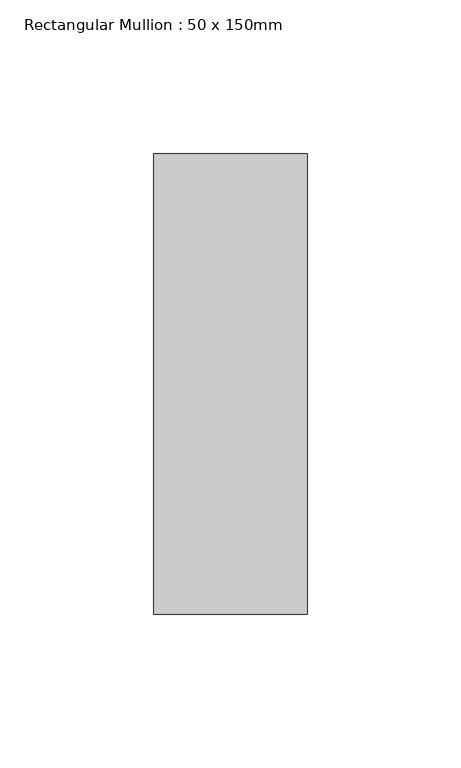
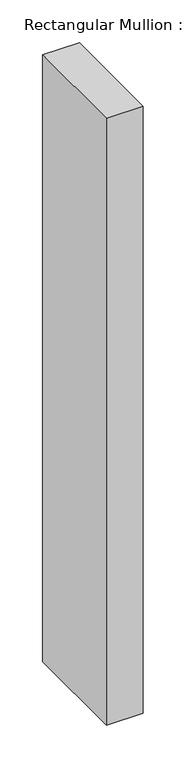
"""IFC4 building model written with IfcOpenShell, lengths in millimetres: member geometry, Rectangular Mullion : 50 x 150mm."""

from ifc_helpers import new_model, si_unit, frame, origin, place, context, project, spatial, polyline, outline, extrude, source, transform, mapped, element, save


def rectangular_mullion_50_x_150mm_f8ff036b(model_context):
    return source(origin(), model_context, "Body", "SweptSolid", [
        extrude(outline(polyline([(0.0, 75.0), (0.0, -75.0), (-50.0, -75.0), (-50.0, 75.0), (0.0, 75.0)])), frame((0.0, 0.0, -869.6425674), z_axis=(0.0, 0.0, 1.0), x_axis=(1.0, 0.0, 0.0)), (0.0, 0.0, 1.0), 869.6425674),
    ])


if __name__ == "__main__":
    model = new_model("IFC4")
    model_context = context("Model", 3, world=origin())
    ifc_project = project(units=[si_unit("LENGTHUNIT", "METRE", prefix="MILLI")], contexts=[model_context])
    site = spatial("IfcSite", under=ifc_project)
    building = spatial("IfcBuilding", under=site)
    placement = place(None, origin())
    rectangular_mullion_50_x_150mm_shape = rectangular_mullion_50_x_150mm_f8ff036b(model_context)
    element("IfcMember", 1, ObjectType="Rectangular Mullion : 50 x 150mm", at=placement, inside=building, context=model_context, shape_type="MappedRepresentation", body=[
        mapped(rectangular_mullion_50_x_150mm_shape, transform((0.0, 0.0, 0.0), x_axis=(1.0, 0.0, 0.0), y_axis=(0.0, 1.0, 0.0), z_axis=(0.0, 0.0, 1.0))),
    ])
    save(model, "model.ifc")
